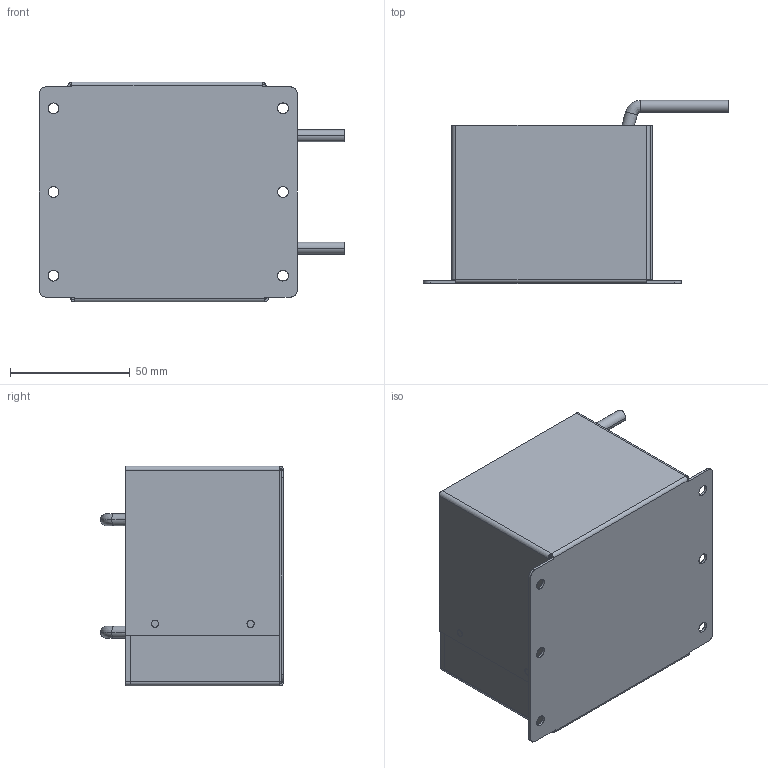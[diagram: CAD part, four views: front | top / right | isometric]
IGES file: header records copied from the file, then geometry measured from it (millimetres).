
Start section: SolidWorks IGES file using analytic representation for surfaces
Global section: file name: 18H\\10.106.230.1\r&d file\05_COMP\02_Mechanical\10_Others\PV_RT 81\网络用3D模型\灌封模型\S-3KW-S-DCL\S-3KW_S_DCL总装.IGS; native system: SolidWorks 2009; preprocessor: SolidWorks 2009; author: 钱雅婧,, ; organization: 11; date: 120507.164012; units: millimetre
Bounding box: 127.9 x 76.5 x 92 mm (x, y, z)
Surface area: 109294.8 mm2 (no closed solid volume)
Topology: 0 solids, 0 shells, 114 faces, 844 edges, 844 vertices
Faces by surface type: bspline 66, revolution 48
